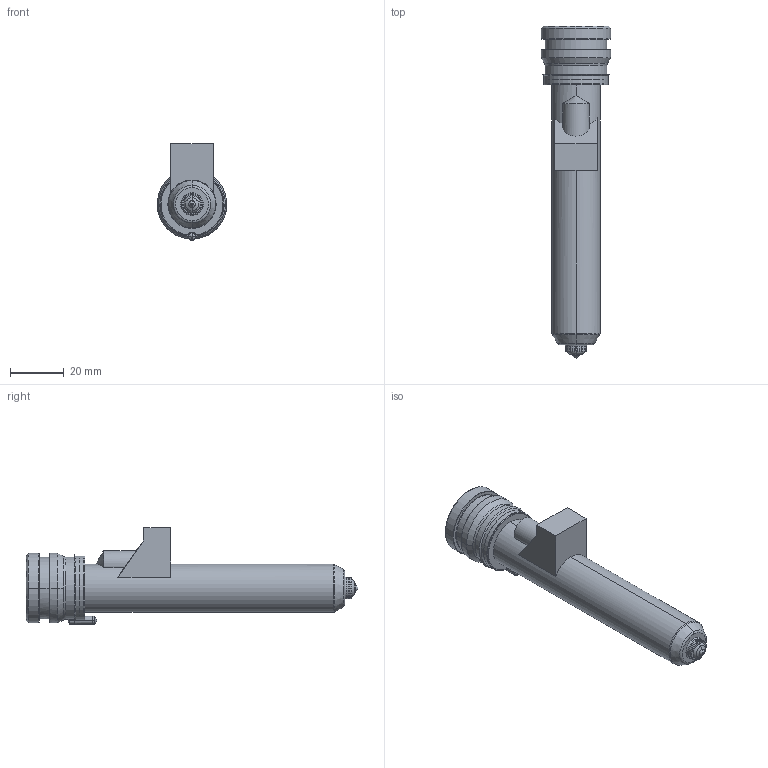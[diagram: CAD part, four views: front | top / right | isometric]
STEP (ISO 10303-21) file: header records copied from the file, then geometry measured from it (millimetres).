
FILE_DESCRIPTION((''),'2;1');
FILE_NAME('TH18106-M-1-PK-JG','2023-12-14T',('umhib'),('Thermoplay S.p.A.'),'PRO/ENGINEER BY PARAMETRIC TECHNOLOGY CORPORATION, 2017170','PRO/ENGINEER BY PARAMETRIC TECHNOLOGY CORPORATION, 2017170','');
FILE_SCHEMA(('CONFIG_CONTROL_DESIGN'));
Length unit declared in the file: millimetre
Products named in the file (1): TH18106-M-1-PK-JG
Bounding box: 26 x 124 x 36.1 mm (x, y, z)
Volume: 26063.7 mm3; surface area: 19914.9 mm2
Topology: 1 solids, 2 shells, 391 faces, 999 edges, 613 vertices
Faces by surface type: cylinder 149, plane 87, cone 62, torus 58, bspline 22, sphere 11, extrusion 2
Entity records: 16792 total; most frequent: CARTESIAN_POINT 5164, DIRECTION 2000, ORIENTED_EDGE 1972, EDGE_CURVE 988, AXIS2_PLACEMENT_3D 806, VERTEX_POINT 613, CIRCLE 438, EDGE_LOOP 414
